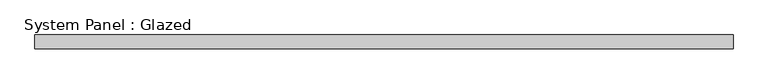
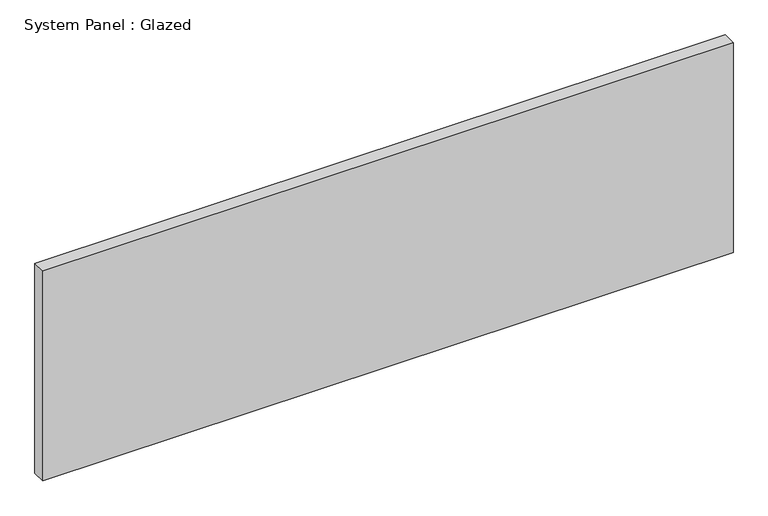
"""IFC4 building model written with IfcOpenShell, lengths in millimetres: plate geometry, System Panel : Glazed."""

from ifc_helpers import new_model, si_unit, origin, origin_with_axes, place, context, project, spatial, polyline, outline, extrude, source, transform, mapped, element, save


def system_panel_glazed_c553e61d(model_context):
    return source(origin(), model_context, "Body", "SweptSolid", [
        extrude(outline(polyline([(632.7777778, -49.5), (-632.7777778, -49.5), (-632.7777778, -24.5), (632.7777778, -24.5), (632.7777778, -49.5)])), origin_with_axes(), (0.0, 0.0, 1.0), 407.2),
    ])


if __name__ == "__main__":
    model = new_model("IFC4")
    model_context = context("Model", 3, world=origin())
    ifc_project = project(units=[si_unit("LENGTHUNIT", "METRE", prefix="MILLI")], contexts=[model_context])
    site = spatial("IfcSite", under=ifc_project)
    building = spatial("IfcBuilding", under=site)
    placement = place(None, origin())
    system_panel_glazed_shape = system_panel_glazed_c553e61d(model_context)
    element("IfcPlate", 1, ObjectType="System Panel : Glazed", at=placement, inside=building, context=model_context, shape_type="MappedRepresentation", body=[
        mapped(system_panel_glazed_shape, transform((0.0, 0.0, 0.0), x_axis=(1.0, 0.0, 0.0), y_axis=(0.0, 1.0, 0.0), z_axis=(0.0, 0.0, 1.0))),
    ])
    save(model, "model.ifc")
